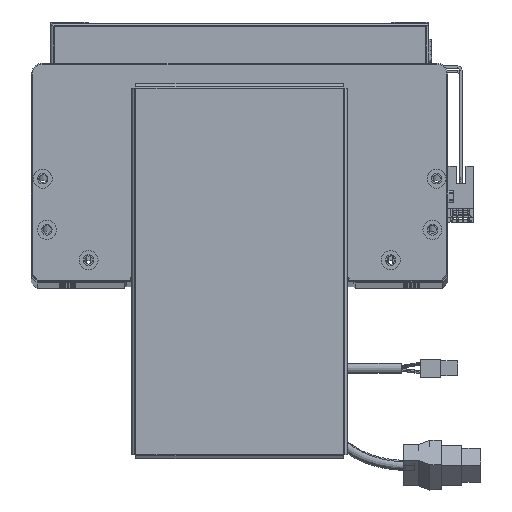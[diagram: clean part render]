
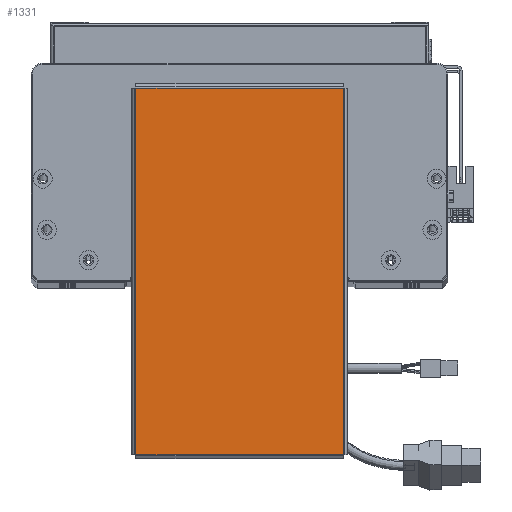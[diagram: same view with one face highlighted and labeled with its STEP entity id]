
A CAD part, top view. The second image highlights one B-rep face of the part: STEP entity #1331.
In plain terms, the highlighted planar face has unit normal (0, 0, 1).
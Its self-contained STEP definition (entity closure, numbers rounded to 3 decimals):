
#168 = ORIENTED_EDGE ( 'NONE', *, *, #56960, .T. ) ;
#1331 = ADVANCED_FACE ( 'NONE', ( #47296 ), #63227, .T. ) ;
#2277 = CARTESIAN_POINT ( 'NONE',  ( -96.763, 54.793, 0. ) ) ;
#3221 = DIRECTION ( 'NONE',  ( 0., 0., 1. ) ) ;
#3768 = LINE ( 'NONE', #7917, #30770 ) ;
#5823 = DIRECTION ( 'NONE',  ( -1., 0., 0. ) ) ;
#6037 = LINE ( 'NONE', #58267, #12856 ) ;
#7311 = CARTESIAN_POINT ( 'NONE',  ( -96.763, -54.763, 0. ) ) ;
#7917 = CARTESIAN_POINT ( 'NONE',  ( -96.793, -54.763, 0. ) ) ;
#8814 = VECTOR ( 'NONE', #29596, 1000. ) ;
#12856 = VECTOR ( 'NONE', #5823, 1000. ) ;
#16028 = VERTEX_POINT ( 'NONE', #26540 ) ;
#19504 = CARTESIAN_POINT ( 'NONE',  ( 0., 0., 0. ) ) ;
#21430 = VERTEX_POINT ( 'NONE', #7311 ) ;
#25901 = LINE ( 'NONE', #42764, #49619 ) ;
#26540 = CARTESIAN_POINT ( 'NONE',  ( 96.763, 54.763, 0. ) ) ;
#29596 = DIRECTION ( 'NONE',  ( 0., -1., 0. ) ) ;
#30770 = VECTOR ( 'NONE', #50919, 1000. ) ;
#37928 = CARTESIAN_POINT ( 'NONE',  ( 96.763, -54.763, 0. ) ) ;
#42563 = AXIS2_PLACEMENT_3D ( 'NONE', #19504, #3221, #63445 ) ;
#42764 = CARTESIAN_POINT ( 'NONE',  ( 96.763, -54.793, 0. ) ) ;
#46008 = LINE ( 'NONE', #2277, #8814 ) ;
#47296 = FACE_OUTER_BOUND ( 'NONE', #62014, .T. ) ;
#49619 = VECTOR ( 'NONE', #63823, 1000. ) ;
#50267 = CARTESIAN_POINT ( 'NONE',  ( -96.763, 54.763, 0. ) ) ;
#50919 = DIRECTION ( 'NONE',  ( 1., 0., 0. ) ) ;
#51797 = ORIENTED_EDGE ( 'NONE', *, *, #54488, .T. ) ;
#51971 = VERTEX_POINT ( 'NONE', #37928 ) ;
#53617 = ORIENTED_EDGE ( 'NONE', *, *, #56918, .T. ) ;
#54488 = EDGE_CURVE ( 'NONE', #51971, #16028, #25901, .T. ) ;
#56918 = EDGE_CURVE ( 'NONE', #66948, #21430, #46008, .T. ) ;
#56960 = EDGE_CURVE ( 'NONE', #21430, #51971, #3768, .T. ) ;
#58267 = CARTESIAN_POINT ( 'NONE',  ( 96.793, 54.763, 0. ) ) ;
#58650 = EDGE_CURVE ( 'NONE', #16028, #66948, #6037, .T. ) ;
#62014 = EDGE_LOOP ( 'NONE', ( #168, #51797, #62515, #53617 ) ) ;
#62515 = ORIENTED_EDGE ( 'NONE', *, *, #58650, .T. ) ;
#63227 = PLANE ( 'NONE',  #42563 ) ;
#63445 = DIRECTION ( 'NONE',  ( 1., 0., 0. ) ) ;
#63823 = DIRECTION ( 'NONE',  ( 0., 1., 0. ) ) ;
#66948 = VERTEX_POINT ( 'NONE', #50267 ) ;
